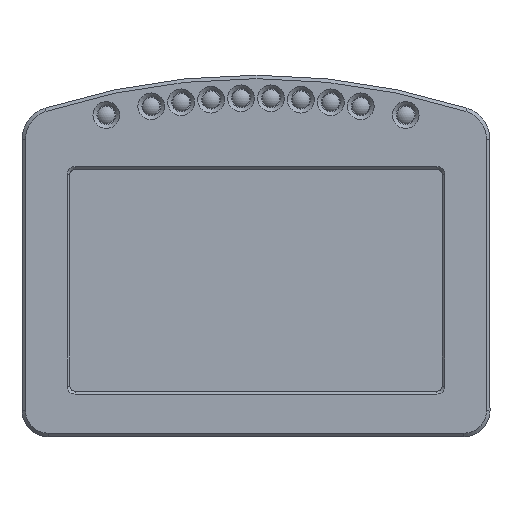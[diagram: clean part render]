
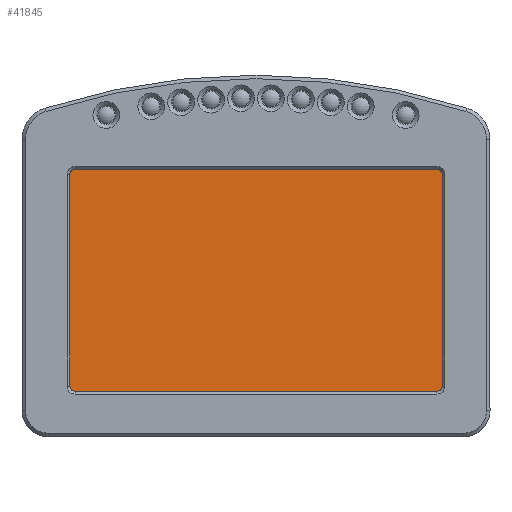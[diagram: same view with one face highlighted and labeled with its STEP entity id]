
A CAD part, top view. The second image highlights one B-rep face of the part: STEP entity #41845.
In plain terms, the highlighted planar face has unit normal (0, 0, 1).
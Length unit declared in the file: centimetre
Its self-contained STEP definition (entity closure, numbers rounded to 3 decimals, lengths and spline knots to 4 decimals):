
#1487=CIRCLE('',#43710,0.15);
#1488=CIRCLE('',#43713,0.15);
#1504=CIRCLE('',#43731,0.15);
#1505=CIRCLE('',#43734,0.15);
#5439=VERTEX_POINT('',#60879);
#5440=VERTEX_POINT('',#60881);
#5441=VERTEX_POINT('',#60885);
#5442=VERTEX_POINT('',#60889);
#5443=VERTEX_POINT('',#60893);
#5462=VERTEX_POINT('',#60934);
#5463=VERTEX_POINT('',#60936);
#5464=VERTEX_POINT('',#60940);
#10851=VECTOR('',#48894,1.);
#10855=VECTOR('',#48903,1.);
#10863=VECTOR('',#48951,1.);
#10864=VECTOR('',#48957,1.);
#13779=LINE('',#60880,#10851);
#13783=LINE('',#60890,#10855);
#13791=LINE('',#60941,#10863);
#13792=LINE('',#60945,#10864);
#16767=EDGE_CURVE('',#5440,#5439,#13779,.T.);
#16770=EDGE_CURVE('',#5439,#5441,#1487,.T.);
#16772=EDGE_CURVE('',#5441,#5442,#13783,.T.);
#16774=EDGE_CURVE('',#5442,#5443,#1488,.T.);
#16794=EDGE_CURVE('',#5463,#5462,#1504,.T.);
#16797=EDGE_CURVE('',#5462,#5464,#13791,.T.);
#16798=EDGE_CURVE('',#5464,#5440,#1505,.T.);
#16799=EDGE_CURVE('',#5443,#5463,#13792,.T.);
#23997=ORIENTED_EDGE('',*,*,#16794,.T.);
#23998=ORIENTED_EDGE('',*,*,#16797,.T.);
#23999=ORIENTED_EDGE('',*,*,#16798,.T.);
#24000=ORIENTED_EDGE('',*,*,#16767,.T.);
#24001=ORIENTED_EDGE('',*,*,#16770,.T.);
#24002=ORIENTED_EDGE('',*,*,#16772,.T.);
#24003=ORIENTED_EDGE('',*,*,#16774,.T.);
#24004=ORIENTED_EDGE('',*,*,#16799,.T.);
#37844=EDGE_LOOP('',(#23997,#23998,#23999,#24000,#24001,#24002,#24003,#24004));
#39856=FACE_BOUND('',#37844,.T.);
#41845=ADVANCED_FACE('',(#39856),#110725,.T.);
#43710=AXIS2_PLACEMENT_3D('',#60886,#48899,#48900);
#43713=AXIS2_PLACEMENT_3D('',#60894,#48907,#48908);
#43731=AXIS2_PLACEMENT_3D('',#60935,#48946,#48947);
#43734=AXIS2_PLACEMENT_3D('',#60943,#48954,#48955);
#43736=AXIS2_PLACEMENT_3D('',#60946,#48958,$);
#48894=DIRECTION('',(0.,1.,0.));
#48899=DIRECTION('',(0.,0.,1.));
#48900=DIRECTION('',(0.15,0.,0.));
#48903=DIRECTION('',(-1.,0.,0.));
#48907=DIRECTION('',(0.,0.,1.));
#48908=DIRECTION('',(0.15,0.,0.));
#48946=DIRECTION('',(0.,0.,1.));
#48947=DIRECTION('',(0.15,0.,0.));
#48951=DIRECTION('',(1.,0.,0.));
#48954=DIRECTION('',(0.,0.,1.));
#48955=DIRECTION('',(0.15,0.,0.));
#48957=DIRECTION('',(0.,-1.,0.));
#48958=DIRECTION('',(0.,0.,1.));
#60879=CARTESIAN_POINT('',(12.075,7.535,1.84));
#60880=CARTESIAN_POINT('',(12.075,7.535,1.84));
#60881=CARTESIAN_POINT('',(12.075,1.455,1.84));
#60885=CARTESIAN_POINT('',(11.925,7.685,1.84));
#60886=CARTESIAN_POINT('',(11.925,7.535,1.84));
#60889=CARTESIAN_POINT('',(1.525,7.685,1.84));
#60890=CARTESIAN_POINT('',(1.525,7.685,1.84));
#60893=CARTESIAN_POINT('',(1.375,7.535,1.84));
#60894=CARTESIAN_POINT('',(1.525,7.535,1.84));
#60934=CARTESIAN_POINT('',(1.525,1.305,1.84));
#60935=CARTESIAN_POINT('',(1.525,1.455,1.84));
#60936=CARTESIAN_POINT('',(1.375,1.455,1.84));
#60940=CARTESIAN_POINT('',(11.925,1.305,1.84));
#60941=CARTESIAN_POINT('',(11.925,1.305,1.84));
#60943=CARTESIAN_POINT('',(11.925,1.455,1.84));
#60945=CARTESIAN_POINT('',(1.375,1.455,1.84));
#60946=CARTESIAN_POINT('',(6.725,4.495,1.84));
#110725=PLANE('',#43736);
